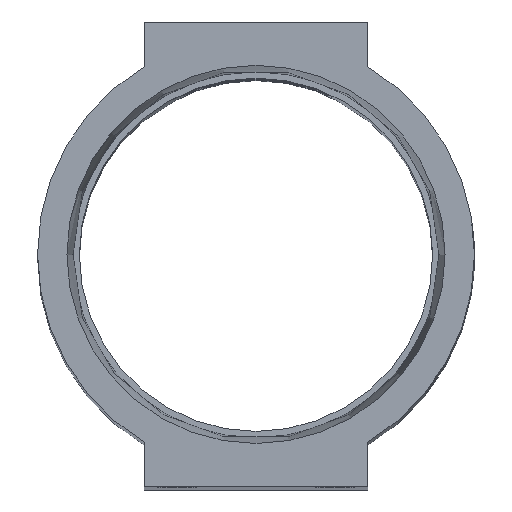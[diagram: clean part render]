
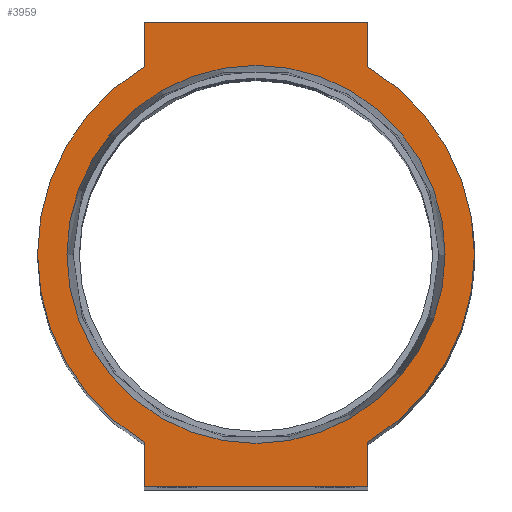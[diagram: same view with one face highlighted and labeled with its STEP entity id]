
A CAD part, top view. The second image highlights one B-rep face of the part: STEP entity #3959.
In plain terms, the highlighted planar face has unit normal (0, 0, 1).
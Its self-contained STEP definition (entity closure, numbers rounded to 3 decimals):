
#194 = CARTESIAN_POINT ( 'NONE',  ( -12., 20.205, 0. ) ) ;
#216 = CARTESIAN_POINT ( 'NONE',  ( 0., 0., 0. ) ) ;
#247 = VERTEX_POINT ( 'NONE', #2980 ) ;
#311 = CIRCLE ( 'NONE', #5170, 23.5 ) ;
#930 = VECTOR ( 'NONE', #1786, 1000. ) ;
#998 = EDGE_CURVE ( 'NONE', #9698, #11581, #311, .T. ) ;
#1038 = VECTOR ( 'NONE', #12147, 1000. ) ;
#1235 = DIRECTION ( 'NONE',  ( 0., 0., 1. ) ) ;
#1256 = EDGE_CURVE ( 'NONE', #6524, #4213, #12236, .T. ) ;
#1418 = ORIENTED_EDGE ( 'NONE', *, *, #8801, .T. ) ;
#1585 = VERTEX_POINT ( 'NONE', #11760 ) ;
#1709 = VECTOR ( 'NONE', #7394, 1000. ) ;
#1729 = AXIS2_PLACEMENT_3D ( 'NONE', #8436, #8377, #12258 ) ;
#1786 = DIRECTION ( 'NONE',  ( 0., 1., 0. ) ) ;
#1898 = CIRCLE ( 'NONE', #8946, 23.5 ) ;
#1940 = EDGE_CURVE ( 'NONE', #247, #2786, #2297, .T. ) ;
#2068 = DIRECTION ( 'NONE',  ( 0., -1., 0. ) ) ;
#2117 = AXIS2_PLACEMENT_3D ( 'NONE', #2713, #2653, #10317 ) ;
#2202 = DIRECTION ( 'NONE',  ( 1., 0., 0. ) ) ;
#2297 = CIRCLE ( 'NONE', #3904, 20.34 ) ;
#2508 = EDGE_CURVE ( 'NONE', #1585, #9698, #12271, .T. ) ;
#2536 = VECTOR ( 'NONE', #10661, 1000. ) ;
#2653 = DIRECTION ( 'NONE',  ( 0., 0., 1. ) ) ;
#2713 = CARTESIAN_POINT ( 'NONE',  ( 0., 0., 0. ) ) ;
#2786 = VERTEX_POINT ( 'NONE', #4617 ) ;
#2806 = EDGE_CURVE ( 'NONE', #2786, #247, #7160, .T. ) ;
#2868 = CARTESIAN_POINT ( 'NONE',  ( 12., 25., 0. ) ) ;
#2980 = CARTESIAN_POINT ( 'NONE',  ( -20.34, 0., 0. ) ) ;
#3027 = CARTESIAN_POINT ( 'NONE',  ( -12., -25., 0. ) ) ;
#3239 = LINE ( 'NONE', #9779, #2536 ) ;
#3280 = ORIENTED_EDGE ( 'NONE', *, *, #4169, .T. ) ;
#3286 = AXIS2_PLACEMENT_3D ( 'NONE', #8545, #11418, #8610 ) ;
#3398 = DIRECTION ( 'NONE',  ( 1., 0., 0. ) ) ;
#3508 = VERTEX_POINT ( 'NONE', #6734 ) ;
#3519 = EDGE_CURVE ( 'NONE', #11581, #6524, #7737, .T. ) ;
#3584 = ORIENTED_EDGE ( 'NONE', *, *, #3519, .T. ) ;
#3726 = CARTESIAN_POINT ( 'NONE',  ( -12., 25., 0. ) ) ;
#3820 = EDGE_CURVE ( 'NONE', #3508, #6000, #1898, .T. ) ;
#3875 = CARTESIAN_POINT ( 'NONE',  ( 12., -25., 0. ) ) ;
#3904 = AXIS2_PLACEMENT_3D ( 'NONE', #5341, #10070, #3398 ) ;
#3959 = ADVANCED_FACE ( 'NONE', ( #8371, #7412 ), #7597, .T. ) ;
#4082 = VERTEX_POINT ( 'NONE', #11989 ) ;
#4169 = EDGE_CURVE ( 'NONE', #4213, #3508, #12533, .T. ) ;
#4213 = VERTEX_POINT ( 'NONE', #10230 ) ;
#4348 = VERTEX_POINT ( 'NONE', #5175 ) ;
#4617 = CARTESIAN_POINT ( 'NONE',  ( 20.34, 0., 0. ) ) ;
#4918 = CARTESIAN_POINT ( 'NONE',  ( -12., -20.205, 0. ) ) ;
#5170 = AXIS2_PLACEMENT_3D ( 'NONE', #216, #8873, #11806 ) ;
#5175 = CARTESIAN_POINT ( 'NONE',  ( 12., 20.205, 0. ) ) ;
#5341 = CARTESIAN_POINT ( 'NONE',  ( 0., 0., 0. ) ) ;
#5668 = EDGE_CURVE ( 'NONE', #4082, #1585, #3239, .T. ) ;
#6000 = VERTEX_POINT ( 'NONE', #9655 ) ;
#6524 = VERTEX_POINT ( 'NONE', #3027 ) ;
#6631 = ORIENTED_EDGE ( 'NONE', *, *, #2806, .F. ) ;
#6708 = ORIENTED_EDGE ( 'NONE', *, *, #998, .T. ) ;
#6734 = CARTESIAN_POINT ( 'NONE',  ( 12., -20.205, 0. ) ) ;
#6938 = CIRCLE ( 'NONE', #2117, 23.5 ) ;
#7031 = ORIENTED_EDGE ( 'NONE', *, *, #1256, .T. ) ;
#7160 = CIRCLE ( 'NONE', #1729, 20.34 ) ;
#7289 = ORIENTED_EDGE ( 'NONE', *, *, #1940, .F. ) ;
#7394 = DIRECTION ( 'NONE',  ( 1., 0., 0. ) ) ;
#7412 = FACE_OUTER_BOUND ( 'NONE', #11845, .T. ) ;
#7549 = VECTOR ( 'NONE', #11304, 1000. ) ;
#7597 = PLANE ( 'NONE',  #3286 ) ;
#7669 = EDGE_CURVE ( 'NONE', #6000, #4348, #6938, .T. ) ;
#7737 = LINE ( 'NONE', #8628, #8622 ) ;
#8168 = ORIENTED_EDGE ( 'NONE', *, *, #7669, .T. ) ;
#8371 = FACE_BOUND ( 'NONE', #8858, .T. ) ;
#8377 = DIRECTION ( 'NONE',  ( 0., 0., 1. ) ) ;
#8436 = CARTESIAN_POINT ( 'NONE',  ( 0., 0., 0. ) ) ;
#8525 = CARTESIAN_POINT ( 'NONE',  ( -12., -25., 0. ) ) ;
#8545 = CARTESIAN_POINT ( 'NONE',  ( 0., 0., 0. ) ) ;
#8610 = DIRECTION ( 'NONE',  ( 1., 0., 0. ) ) ;
#8622 = VECTOR ( 'NONE', #2068, 1000. ) ;
#8628 = CARTESIAN_POINT ( 'NONE',  ( -12., -25., 0. ) ) ;
#8801 = EDGE_CURVE ( 'NONE', #4348, #4082, #9654, .T. ) ;
#8858 = EDGE_LOOP ( 'NONE', ( #6631, #7289 ) ) ;
#8873 = DIRECTION ( 'NONE',  ( 0., 0., 1. ) ) ;
#8946 = AXIS2_PLACEMENT_3D ( 'NONE', #9891, #1235, #2202 ) ;
#8973 = ORIENTED_EDGE ( 'NONE', *, *, #5668, .T. ) ;
#9474 = ORIENTED_EDGE ( 'NONE', *, *, #3820, .T. ) ;
#9654 = LINE ( 'NONE', #2868, #930 ) ;
#9655 = CARTESIAN_POINT ( 'NONE',  ( 23.5, 0., 0. ) ) ;
#9698 = VERTEX_POINT ( 'NONE', #194 ) ;
#9779 = CARTESIAN_POINT ( 'NONE',  ( -12., 25., 0. ) ) ;
#9891 = CARTESIAN_POINT ( 'NONE',  ( 0., 0., 0. ) ) ;
#10070 = DIRECTION ( 'NONE',  ( 0., 0., 1. ) ) ;
#10230 = CARTESIAN_POINT ( 'NONE',  ( 12., -25., 0. ) ) ;
#10317 = DIRECTION ( 'NONE',  ( 1., 0., 0. ) ) ;
#10661 = DIRECTION ( 'NONE',  ( -1., 0., 0. ) ) ;
#11304 = DIRECTION ( 'NONE',  ( 0., -1., 0. ) ) ;
#11418 = DIRECTION ( 'NONE',  ( 0., 0., 1. ) ) ;
#11581 = VERTEX_POINT ( 'NONE', #4918 ) ;
#11760 = CARTESIAN_POINT ( 'NONE',  ( -12., 25., 0. ) ) ;
#11806 = DIRECTION ( 'NONE',  ( 1., 0., 0. ) ) ;
#11845 = EDGE_LOOP ( 'NONE', ( #1418, #8973, #12530, #6708, #3584, #7031, #3280, #9474, #8168 ) ) ;
#11989 = CARTESIAN_POINT ( 'NONE',  ( 12., 25., 0. ) ) ;
#12147 = DIRECTION ( 'NONE',  ( 0., 1., 0. ) ) ;
#12236 = LINE ( 'NONE', #8525, #1709 ) ;
#12258 = DIRECTION ( 'NONE',  ( 1., 0., 0. ) ) ;
#12271 = LINE ( 'NONE', #3726, #7549 ) ;
#12530 = ORIENTED_EDGE ( 'NONE', *, *, #2508, .T. ) ;
#12533 = LINE ( 'NONE', #3875, #1038 ) ;
